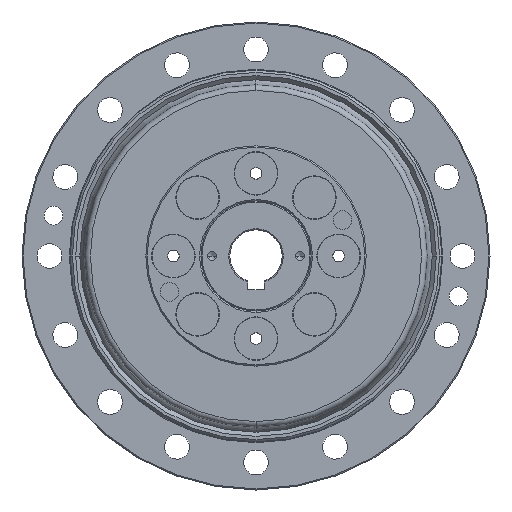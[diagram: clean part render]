
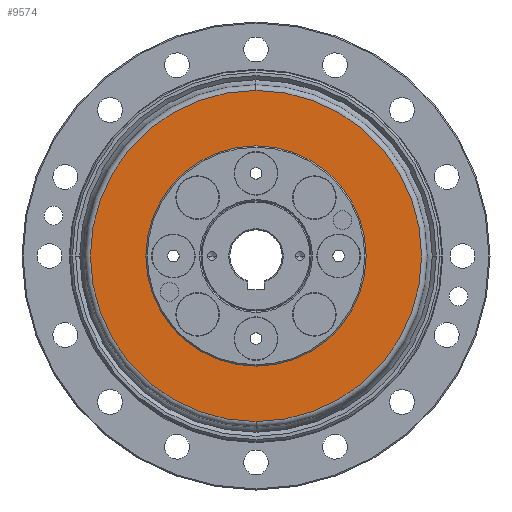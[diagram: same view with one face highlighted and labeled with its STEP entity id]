
A CAD part, left-side view. The second image highlights one B-rep face of the part: STEP entity #9574.
In plain terms, the highlighted planar face has unit normal (-1, 0, 0).
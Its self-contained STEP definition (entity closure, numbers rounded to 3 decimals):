
#120 = VERTEX_POINT ( 'NONE', #8946 ) ;
#184 = FACE_BOUND ( 'NONE', #10566, .T. ) ;
#360 = DIRECTION ( 'NONE',  ( 1., 0., 0. ) ) ;
#440 = DIRECTION ( 'NONE',  ( 0., 0., -1. ) ) ;
#459 = CIRCLE ( 'NONE', #4258, 40. ) ;
#639 = CARTESIAN_POINT ( 'NONE',  ( 4., 0., 0. ) ) ;
#699 = VERTEX_POINT ( 'NONE', #10447 ) ;
#1252 = CIRCLE ( 'NONE', #5629, 60.15 ) ;
#1750 = CARTESIAN_POINT ( 'NONE',  ( 4., 0., 60.15 ) ) ;
#2019 = EDGE_CURVE ( 'NONE', #9500, #120, #11378, .T. ) ;
#2763 = AXIS2_PLACEMENT_3D ( 'NONE', #4526, #10712, #5394 ) ;
#3221 = VERTEX_POINT ( 'NONE', #9308 ) ;
#3266 = EDGE_LOOP ( 'NONE', ( #8365, #7742 ) ) ;
#3330 = EDGE_CURVE ( 'NONE', #699, #3221, #459, .T. ) ;
#3441 = AXIS2_PLACEMENT_3D ( 'NONE', #10364, #7934, #440 ) ;
#4211 = EDGE_CURVE ( 'NONE', #120, #9500, #1252, .T. ) ;
#4258 = AXIS2_PLACEMENT_3D ( 'NONE', #639, #9049, #7469 ) ;
#4526 = CARTESIAN_POINT ( 'NONE',  ( 4., 60.15, 0. ) ) ;
#4684 = DIRECTION ( 'NONE',  ( 0., 0., -1. ) ) ;
#5320 = PLANE ( 'NONE',  #2763 ) ;
#5394 = DIRECTION ( 'NONE',  ( 0., 0., 1. ) ) ;
#5440 = DIRECTION ( 'NONE',  ( 1., 0., 0. ) ) ;
#5582 = DIRECTION ( 'NONE',  ( 0., 0., -1. ) ) ;
#5629 = AXIS2_PLACEMENT_3D ( 'NONE', #9772, #5440, #4684 ) ;
#5952 = ORIENTED_EDGE ( 'NONE', *, *, #6253, .T. ) ;
#6253 = EDGE_CURVE ( 'NONE', #3221, #699, #9146, .T. ) ;
#6875 = FACE_OUTER_BOUND ( 'NONE', #3266, .T. ) ;
#7469 = DIRECTION ( 'NONE',  ( 0., 0., -1. ) ) ;
#7742 = ORIENTED_EDGE ( 'NONE', *, *, #2019, .F. ) ;
#7934 = DIRECTION ( 'NONE',  ( 1., 0., 0. ) ) ;
#8365 = ORIENTED_EDGE ( 'NONE', *, *, #4211, .F. ) ;
#8946 = CARTESIAN_POINT ( 'NONE',  ( 4., 0., -60.15 ) ) ;
#9037 = AXIS2_PLACEMENT_3D ( 'NONE', #9081, #360, #5582 ) ;
#9049 = DIRECTION ( 'NONE',  ( 1., 0., 0. ) ) ;
#9081 = CARTESIAN_POINT ( 'NONE',  ( 4., 0., 0. ) ) ;
#9146 = CIRCLE ( 'NONE', #9037, 40. ) ;
#9292 = ORIENTED_EDGE ( 'NONE', *, *, #3330, .T. ) ;
#9308 = CARTESIAN_POINT ( 'NONE',  ( 4., 0., 40. ) ) ;
#9500 = VERTEX_POINT ( 'NONE', #1750 ) ;
#9574 = ADVANCED_FACE ( 'NONE', ( #184, #6875 ), #5320, .T. ) ;
#9772 = CARTESIAN_POINT ( 'NONE',  ( 4., 0., 0. ) ) ;
#10364 = CARTESIAN_POINT ( 'NONE',  ( 4., 0., 0. ) ) ;
#10447 = CARTESIAN_POINT ( 'NONE',  ( 4., 0., -40. ) ) ;
#10566 = EDGE_LOOP ( 'NONE', ( #9292, #5952 ) ) ;
#10712 = DIRECTION ( 'NONE',  ( -1., 0., 0. ) ) ;
#11378 = CIRCLE ( 'NONE', #3441, 60.15 ) ;
